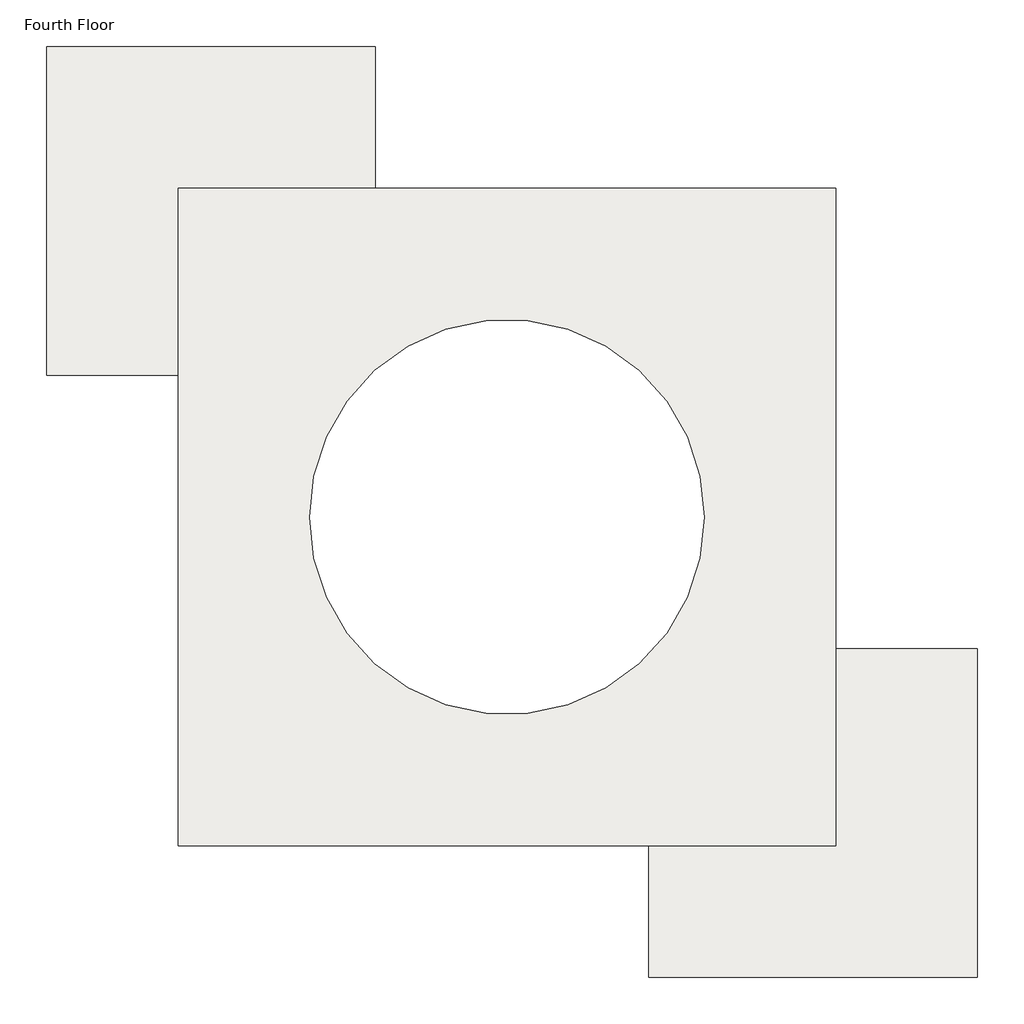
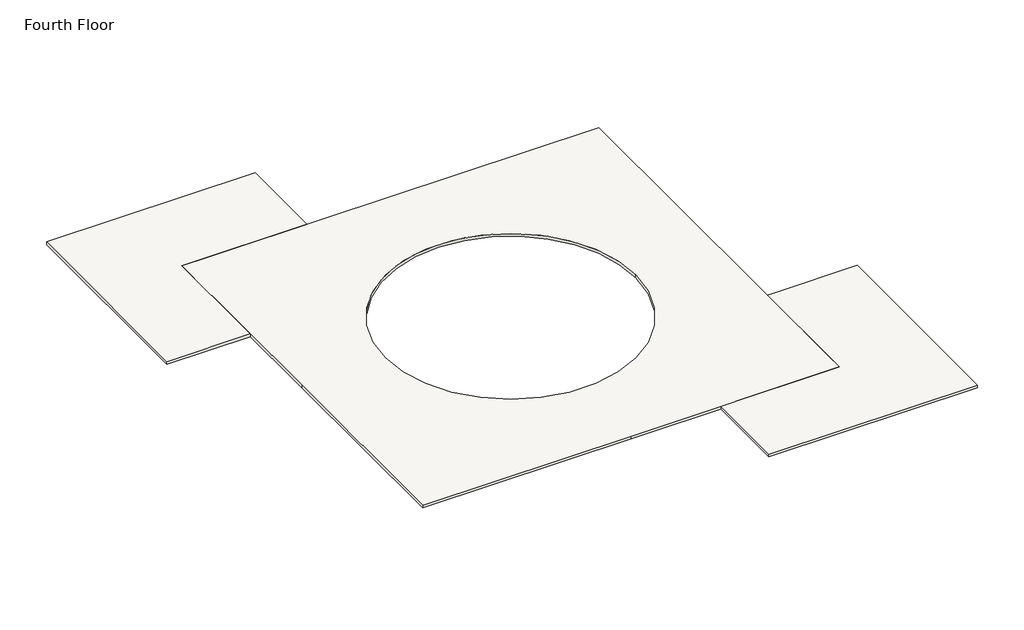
# One storey: 2 slabs.
"""IFC4 building model written with IfcOpenShell, lengths in millimetres."""

import ifcopenshell
import ifcopenshell.guid

model = None  # the IFC model being written
_history = None  # IfcOwnerHistory: only IFC2X3 demands one
_inside = {}  # id of a spatial element -> (the spatial element, [elements in it])
_under = {}  # id of a project, library or spatial element -> (it, [spatial elements below it])
_declared = {}  # id of a project -> (the project, [libraries it declares])
_typed = {}  # id of a type object -> (the type object, [elements of that type])
_made_of = {}  # id of a material, layer set ... -> (it, [elements and type objects made of it])


def new_model(schema):
    """Start an empty IFC model of exactly this schema.

    Asked for "IFC4X3", IfcOpenShell would pick the latest addendum, in which some entities
    have other attributes; the version numbers below select the first issue.
    IFC2X3 requires an IfcOwnerHistory on every rooted entity: one is made here for all.
    """
    global model, _history
    if schema == "IFC4X3":
        model = ifcopenshell.file(schema_version=(4, 3, 0, 0))
    else:
        model = ifcopenshell.file(schema=schema)
    _inside.clear()
    _under.clear()
    _declared.clear()
    _typed.clear()
    _made_of.clear()
    _history = None
    if model.schema == "IFC2X3":
        org = make("IfcOrganization", Name="unknown")
        user = make(
            "IfcPersonAndOrganization",
            ThePerson=make("IfcPerson", FamilyName="unknown"),
            TheOrganization=org,
        )
        app = make(
            "IfcApplication",
            ApplicationDeveloper=org,
            Version="unknown",
            ApplicationFullName="unknown",
            ApplicationIdentifier="unknown",
        )
        _history = make(
            "IfcOwnerHistory",
            OwningUser=user,
            OwningApplication=app,
            ChangeAction="ADDED",
            CreationDate=0,
        )
    return model


def make(cls, **values):
    """One entity of the class cls with the attributes given. An attribute that is None is left unset."""
    return model.create_entity(
        cls, **{name: value for name, value in values.items() if value is not None}
    )


def rooted(cls, **values):
    """An entity with a GlobalId (a new one), such as an element, a storey or a relation."""
    return make(cls, GlobalId=ifcopenshell.guid.new(), OwnerHistory=_history, **values)


def si_unit(unit_type, name, prefix=None):
    """IfcSIUnit, for example si_unit("LENGTHUNIT", "METRE", prefix="MILLI")."""
    return make("IfcSIUnit", UnitType=unit_type, Prefix=prefix, Name=name)


def assignment(units):
    """IfcUnitAssignment: the units of a project."""
    return None if units is None else make("IfcUnitAssignment", Units=units)


def point(xyz):
    """IfcCartesianPoint."""
    return None if xyz is None else make("IfcCartesianPoint", Coordinates=xyz)


def direction(xyz):
    """IfcDirection."""
    return None if xyz is None else make("IfcDirection", DirectionRatios=xyz)


def frame(location, z_axis=None, x_axis=None):
    """IfcAxis2Placement3D, a coordinate frame: its origin and axes. An axis left out is left unset."""
    return make(
        "IfcAxis2Placement3D",
        Location=point(location),
        Axis=direction(z_axis),
        RefDirection=direction(x_axis),
    )


def frame_2d(location, x_axis=None):
    """IfcAxis2Placement2D, a coordinate frame in the plane: its origin and x axis."""
    return make(
        "IfcAxis2Placement2D", Location=point(location), RefDirection=direction(x_axis)
    )


def origin():
    """The frame at (0, 0, 0) with its axes left unset."""
    return frame((0.0, 0.0, 0.0))


def place(relative_to, where):
    """IfcLocalPlacement: puts the frame where relative to a parent placement (None: the world)."""
    return make(
        "IfcLocalPlacement", PlacementRelTo=relative_to, RelativePlacement=where
    )


def context(
    kind, dimensions, precision=None, world=None, true_north=None, identifier=None
):
    """IfcGeometricRepresentationContext, for example the 3D "Model" context."""
    return make(
        "IfcGeometricRepresentationContext",
        ContextIdentifier=identifier,
        ContextType=kind,
        CoordinateSpaceDimension=dimensions,
        Precision=precision,
        WorldCoordinateSystem=world,
        TrueNorth=true_north,
    )


def project(units=None, contexts=None):
    """IfcProject with its units and contexts."""
    return rooted(
        "IfcProject",
        Name="project",
        RepresentationContexts=contexts,
        UnitsInContext=assignment(units),
    )


def spatial(cls, under=None, at=None, **own):
    """A site, building, storey or space (cls), placed at a placement, below another one or the project."""
    s = rooted(cls, ObjectPlacement=at, **own)
    if under is not None:
        _under.setdefault(under.id(), (under, []))[1].append(s)
    return s


def polyline(points):
    """IfcPolyline through the points."""
    return make("IfcPolyline", Points=[point(p) for p in points])


def circle_curve(where, radius):
    """IfcCircle in the frame where."""
    return make("IfcCircle", Position=where, Radius=radius)


def trimmed(basis, trim1, trim2, sense, master):
    """IfcTrimmedCurve: the piece of a basis curve between two trims."""
    return make(
        "IfcTrimmedCurve",
        BasisCurve=basis,
        Trim1=trim1,
        Trim2=trim2,
        SenseAgreement=sense,
        MasterRepresentation=master,
    )


def segment(curve, same_sense, transition):
    """IfcCompositeCurveSegment."""
    return make(
        "IfcCompositeCurveSegment",
        Transition=transition,
        SameSense=same_sense,
        ParentCurve=curve,
    )


def composite_curve(segments, self_intersect=None):
    """IfcCompositeCurve: segments joined end to end."""
    return make("IfcCompositeCurve", Segments=segments, SelfIntersect=self_intersect)


def outline(outer, holes=None, kind="AREA"):
    """IfcArbitraryClosedProfileDef: a profile drawn as a closed curve; with holes, ...WithVoids."""
    if holes is None:
        return make("IfcArbitraryClosedProfileDef", ProfileType=kind, OuterCurve=outer)
    return make(
        "IfcArbitraryProfileDefWithVoids",
        ProfileType=kind,
        OuterCurve=outer,
        InnerCurves=holes,
    )


def extrude(swept, where, along, depth):
    """IfcExtrudedAreaSolid: the profile swept, set in the frame where, extruded along a direction by depth."""
    return make(
        "IfcExtrudedAreaSolid",
        SweptArea=swept,
        Position=where,
        ExtrudedDirection=direction(along),
        Depth=depth,
    )


def shape(context_of_items, identifier, shape_type, items):
    """IfcShapeRepresentation: the items that make up one representation, for example the "Body"."""
    return make(
        "IfcShapeRepresentation",
        ContextOfItems=context_of_items,
        RepresentationIdentifier=identifier,
        RepresentationType=shape_type,
        Items=items,
    )


def made_of(thing, what):
    """Note that an element or type object is made of a material, layer set ...; save() writes the relation."""
    if what is not None:
        _made_of.setdefault(what.id(), (what, []))[1].append(thing)
    return thing


def element(
    cls,
    number,
    at=None,
    inside=None,
    cuts=None,
    type_object=None,
    material=None,
    context=None,
    identifier="Body",
    shape_type=None,
    held_by="IfcProductDefinitionShape",
    body=None,
    shapes=None,
    **own,
):
    """One element of the class cls, such as IfcWall. Its Tag is "e" and its number.

    at: its placement. inside: the storey or other place that contains it. cuts: it is an
    opening in that element (IfcRelVoidsElement). A single representation is given by context,
    identifier, shape_type and body (its items); several are given by shapes. held_by: the class
    of the entity that holds the representations. save() writes the other relations.
    """
    e = rooted(cls, Tag="e%d" % number, ObjectPlacement=at, **own)
    if body is not None:
        shapes = [shape(context, identifier, shape_type, body)]
    if shapes is not None:
        e.Representation = make(held_by, Representations=shapes)
    if inside is not None:
        _inside.setdefault(inside.id(), (inside, []))[1].append(e)
    if cuts is not None:
        rooted(
            "IfcRelVoidsElement", RelatingBuildingElement=cuts, RelatedOpeningElement=e
        )
    if type_object is not None:
        _typed.setdefault(type_object.id(), (type_object, []))[1].append(e)
    return made_of(e, material)


def aggregate(whole, parts):
    """IfcRelAggregates: a whole, such as a stair, and the parts it consists of."""
    return rooted("IfcRelAggregates", RelatingObject=whole, RelatedObjects=parts)


def save(model, path):
    """Write the relations noted so far, then the file.

    IfcRelAggregates (storeys below a building ...), IfcRelContainedInSpatialStructure (elements
    in a storey), IfcRelDefinesByType, IfcRelAssociatesMaterial and IfcRelDeclares: one each for
    every whole, place, type object, material and project.
    """
    for whole, parts in _under.values():
        aggregate(whole, parts)
    for where, things in _inside.values():
        rooted(
            "IfcRelContainedInSpatialStructure",
            RelatedElements=things,
            RelatingStructure=where,
        )
    for kind, things in _typed.values():
        rooted("IfcRelDefinesByType", RelatedObjects=things, RelatingType=kind)
    for what, things in _made_of.values():
        rooted("IfcRelAssociatesMaterial", RelatedObjects=things, RelatingMaterial=what)
    for by, libraries in _declared.values():
        rooted("IfcRelDeclares", RelatingContext=by, RelatedDefinitions=libraries)
    model.write(path)


model = new_model("IFC4")

# Units and contexts
model_context = context("Model", 3, world=origin())
ifc_project = project(units=[si_unit("LENGTHUNIT", "METRE", prefix="MILLI")], contexts=[model_context])

# Site, building, storey
site = spatial("IfcSite", under=ifc_project)
building = spatial("IfcBuilding", under=site)
storey = spatial("IfcBuildingStorey", under=building, Name="Fourth Floor", Elevation=9144.0)

# Slabs
placement = place(None, origin())
element("IfcSlab", 1, ObjectType="LW Concrete on Metal Deck", at=placement, inside=storey, context=model_context, shape_type="SweptSolid", body=[
    extrude(outline(polyline([(4920.7859619, 5010.3465511), (4920.7859619, -10229.6534489), (-2699.2140381, -10229.6534489), (-10319.2140381, -10229.6534489), (-10319.2140381, -2609.6534489), (-10319.2140381, 5010.3465511), (4920.7859619, 5010.3465511)]), holes=[composite_curve([segment(trimmed(circle_curve(frame_2d((-2699.2140381, -2609.6534489)), 4572.0), [point((1872.7859619, -2609.6534489))], [point((-7271.2140381, -2609.6534489))], True, "CARTESIAN"), True, "CONTINUOUS"), segment(trimmed(circle_curve(frame_2d((-2699.2140381, -2609.6534489)), 4572.0), [point((-7271.2140381, -2609.6534489))], [point((1872.7859619, -2609.6534489))], True, "CARTESIAN"), True, "CONTINUOUS")], self_intersect=False)]), frame((0.0, 0.0, 9039.225), z_axis=(0.0, 0.0, 1.0), x_axis=(1.0, 0.0, 0.0)), (0.0, 0.0, 1.0), 104.775),
])
element("IfcSlab", 2, ObjectType="LW Concrete on Metal Deck", at=placement, inside=storey, context=model_context, shape_type="SweptSolid", body=[
    extrude(outline(polyline([(-13367.2140381, 672.984638), (-13367.2140381, 8292.984638), (-5747.2140381, 8292.984638), (-5747.2140381, 5244.984638), (-5747.2140381, 5010.3465511), (-10319.2140381, 5010.3465511), (-10319.2140381, 672.984638), (-13367.2140381, 672.984638)])), frame((0.0, 0.0, 9039.225), z_axis=(0.0, 0.0, 1.0), x_axis=(1.0, 0.0, 0.0)), (0.0, 0.0, 1.0), 104.775),
    extrude(outline(polyline([(583.4240488, -13277.6534489), (583.4240488, -10229.6534489), (4920.7859619, -10229.6534489), (4920.7859619, -5657.6534489), (5155.4240488, -5657.6534489), (8203.4240488, -5657.6534489), (8203.4240488, -13277.6534489), (583.4240488, -13277.6534489)])), frame((0.0, 0.0, 9039.225), z_axis=(0.0, 0.0, 1.0), x_axis=(1.0, 0.0, 0.0)), (0.0, 0.0, 1.0), 104.775),
])

save(model, "model.ifc")
